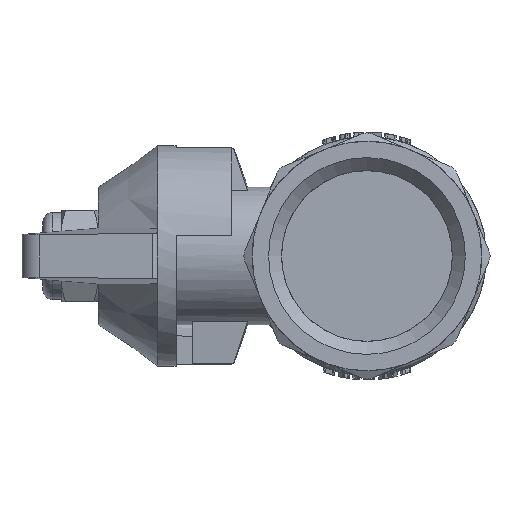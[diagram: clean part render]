
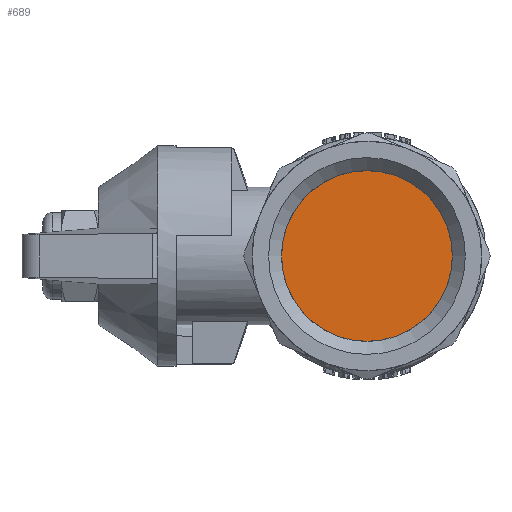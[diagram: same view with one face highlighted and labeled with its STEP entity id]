
A CAD part, left-side view. The second image highlights one B-rep face of the part: STEP entity #689.
In plain terms, the highlighted planar face has unit normal (-1, 0, 0).
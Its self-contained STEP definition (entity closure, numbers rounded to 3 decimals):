
#689=ADVANCED_FACE('',(#5021),#5023,.T.);
#5021=FACE_BOUND('',#5022,.T.);
#5022=EDGE_LOOP('',(#9004));
#5023=PLANE('',#5024);
#5024=AXIS2_PLACEMENT_3D('',#5025,#5026,#5027);
#5025=CARTESIAN_POINT('',(-29.25,0.,0.));
#5026=DIRECTION('',(-1.,0.,0.));
#5027=DIRECTION('',(0.,0.,1.));
#9004=ORIENTED_EDGE('',*,*,#10649,.T.);
#10649=EDGE_CURVE('',#13388,#13388,#13389,.T.);
#13388=VERTEX_POINT('',#28485);
#13389=CIRCLE('',#28486,9.3);
#28485=CARTESIAN_POINT('',(-29.25,0.,9.3));
#28486=AXIS2_PLACEMENT_3D('',#28487,#28488,#28489);
#28487=CARTESIAN_POINT('',(-29.25,0.,0.));
#28488=DIRECTION('',(-1.,0.,0.));
#28489=DIRECTION('',(0.,0.,1.));
